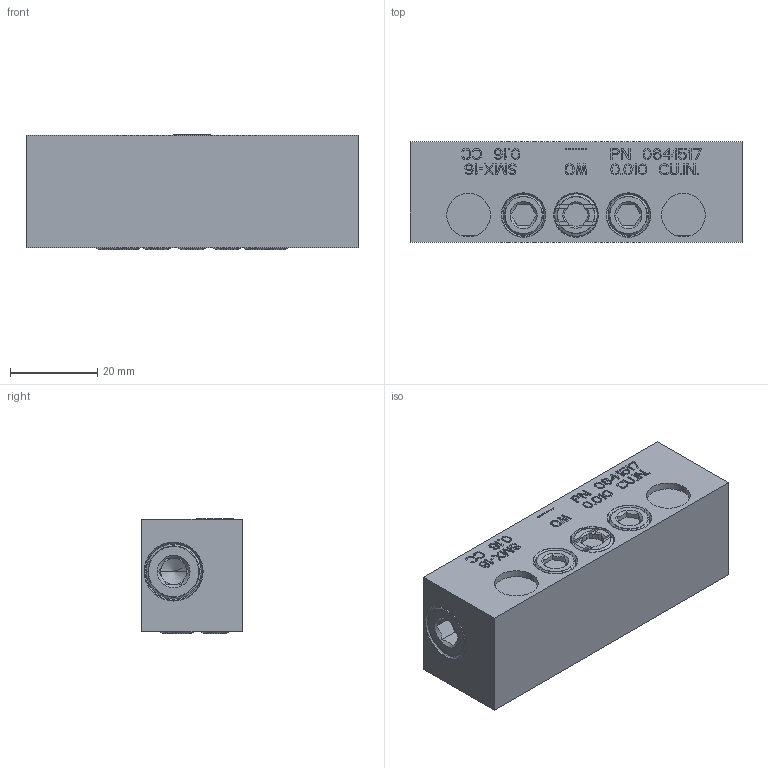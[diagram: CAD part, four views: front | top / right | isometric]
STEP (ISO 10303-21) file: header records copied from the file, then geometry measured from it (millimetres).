
FILE_DESCRIPTION((''),'2;1');
FILE_NAME('0641517_SMX_16','2023-07-21T09:31:14',('pietro.masciave'),(''),'CREO PARAMETRIC BY PTC INC, 2022281','CREO PARAMETRIC BY PTC INC, 2022281','');
FILE_SCHEMA(('CONFIG_CONTROL_DESIGN'));
Length unit declared in the file: millimetre
Products named in the file (1): 0641517_SMX_16
Bounding box: 76 x 23 x 26.33 mm (x, y, z)
Volume: 44005.4 mm3; surface area: 12664.9 mm2
Topology: 1 solids, 14 shells, 1219 faces, 3347 edges, 2223 vertices
Faces by surface type: plane 1043, cylinder 110, cone 44, torus 22
Entity records: 39351 total; most frequent: CARTESIAN_POINT 8113, ORIENTED_EDGE 6646, DIRECTION 6064, EDGE_CURVE 3343, VECTOR 2908, LINE 2908, VERTEX_POINT 2223, AXIS2_PLACEMENT_3D 1578
